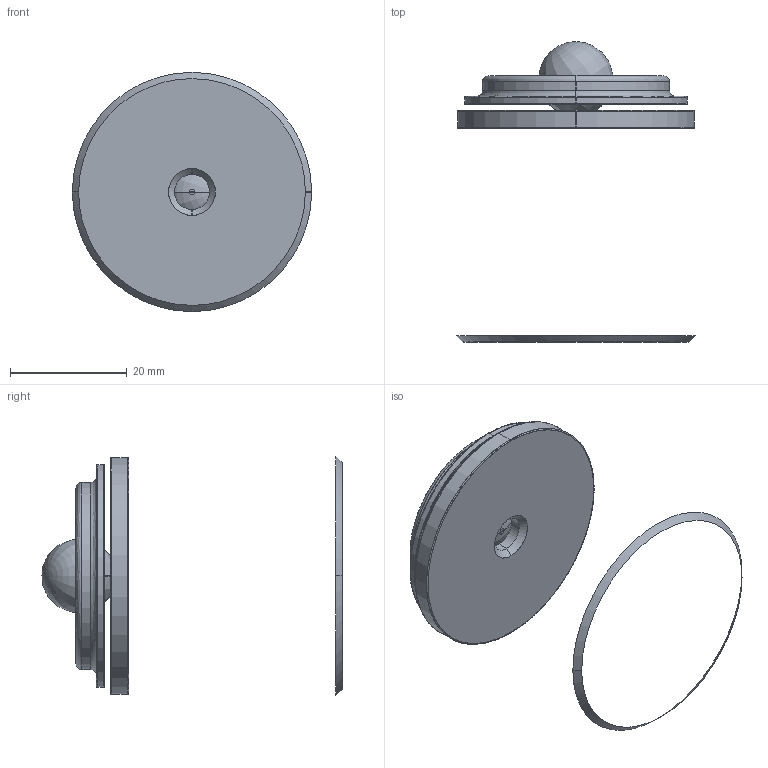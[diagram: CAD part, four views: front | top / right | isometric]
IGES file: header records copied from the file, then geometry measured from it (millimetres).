
Start section: SolidWorks IGES file using analytic representation for surfaces
Global section: file name: Z:\g2 CAD\EREZ PDM TMP\IGS tests\BC0500-OTX-A100 BTM Half Pack .IGS; native system: SolidWorks 2015; preprocessor: SolidWorks 2015; author: meekGee; date: 160113.220914; units: millimetre
Bounding box: 40.92 x 51.36 x 40.92 mm (x, y, z)
Surface area: 4459.1 mm2 (no closed solid volume)
Topology: 0 solids, 0 shells, 31 faces, 442 edges, 440 vertices
Faces by surface type: revolution 16, bspline 15
